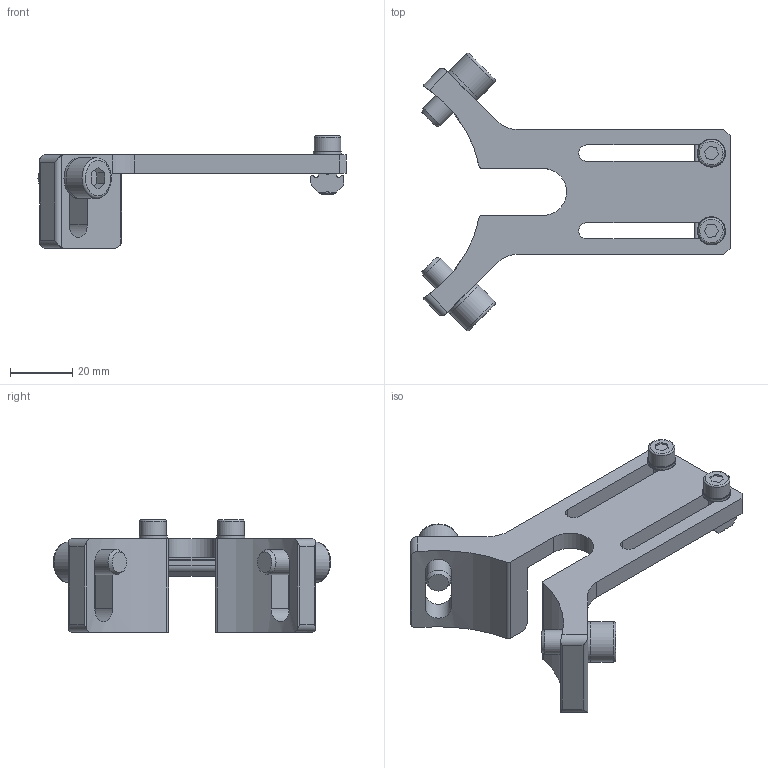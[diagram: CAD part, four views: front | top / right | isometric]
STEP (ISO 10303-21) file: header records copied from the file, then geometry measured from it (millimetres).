
FILE_DESCRIPTION(('STEP AP214'),'1');
FILE_NAME('CA.09.17.2045.X.stp','2020-04-01T12:44:45',(' '),(' '),'Spatial InterOp 3D',' ',' ');
FILE_SCHEMA(('AUTOMOTIVE_DESIGN { 1 0 10303 214 1 1 1 1 }'));
Length unit declared in the file: millimetre
Products named in the file (8): CA.09.17.2045.X; V.TCE5x14; R.5.SCH; CA.GWP.5.25; GWP.5.25; 09.17.2045; V.TCE8x16; R.8.SCH
Assembly tree (11 placements, depth 3):
  CA.09.17.2045.X
    V.TCE5x14  x2
    R.5.SCH  x2
    CA.GWP.5.25
      GWP.5.25
    09.17.2045
    V.TCE8x16  x2
    R.8.SCH  x2
Bounding box: 99 x 89.14 x 36.1 mm (x, y, z)
Volume: 36204.6 mm3; surface area: 18526.6 mm2
Topology: 8 solids, 10 shells, 535 faces, 1529 edges, 1012 vertices
Faces by surface type: plane 466, cylinder 57, torus 8, cone 4
Full cylindrical faces by diameter (mm): 4.5 x2, 5 x2, 5.3 x2, 8 x2, 8.3 x2, 8.5 x2, 9 x2, 13 x4
Entity records: 13200 total; most frequent: CARTESIAN_POINT 2083, DIRECTION 1745, ORIENTED_EDGE 1722, EDGE_CURVE 861, AXIS2_PLACEMENT_3D 590, VERTEX_POINT 580, LINE 565, VECTOR 565
